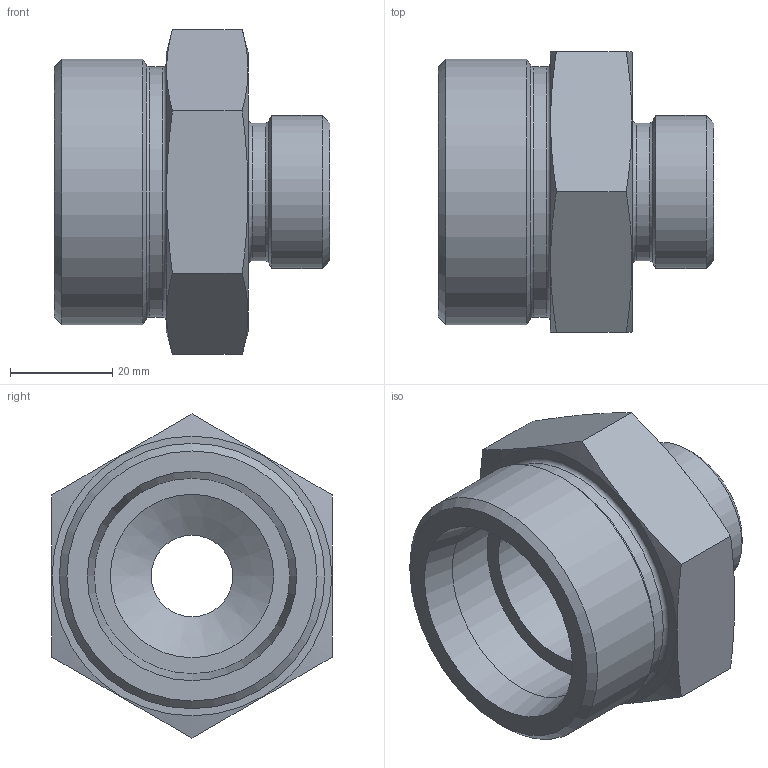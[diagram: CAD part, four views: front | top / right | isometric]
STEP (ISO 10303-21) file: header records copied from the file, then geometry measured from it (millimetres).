
FILE_DESCRIPTION( ( 'Unknown' ), '1' );
FILE_NAME( 'C:/Users/p.nanko/Desktop/3D SR/XGR3820S.stp', 'Unknown', ( 'Peter Nanko' ), ( 'Armaturen Arndt' ), 'PSStep 14.0', 'Solid Edge ST4', ' ' );
FILE_SCHEMA( ( 'AUTOMOTIVE_DESIGN { 1 0 10303 214 1 1 1 1 }' ) );
Length unit declared in the file: millimetre
Products named in the file (1): 1
Bounding box: 54 x 55 x 63.51 mm (x, y, z)
Volume: 61919.7 mm3; surface area: 17220.5 mm2
Topology: 1 solids, 1 shells, 33 faces, 70 edges, 43 vertices
Faces by surface type: plane 12, cone 9, cylinder 8, torus 4
Full cylindrical faces by diameter (mm): 16 x1, 20 x1, 27 x1, 30 x1, 32 x1, 38.3 x1, 49 x1, 52 x1
Entity records: 1092 total; most frequent: CARTESIAN_POINT 216, DIRECTION 126, ORIENTED_EDGE 88, AXIS2_PLACEMENT_3D 60, EDGE_LOOP 60, FACE_OUTER_BOUND 45, EDGE_CURVE 44, VERTEX_POINT 38
